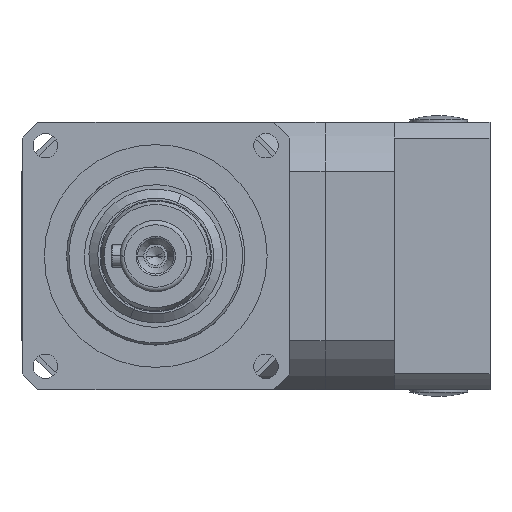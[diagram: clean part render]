
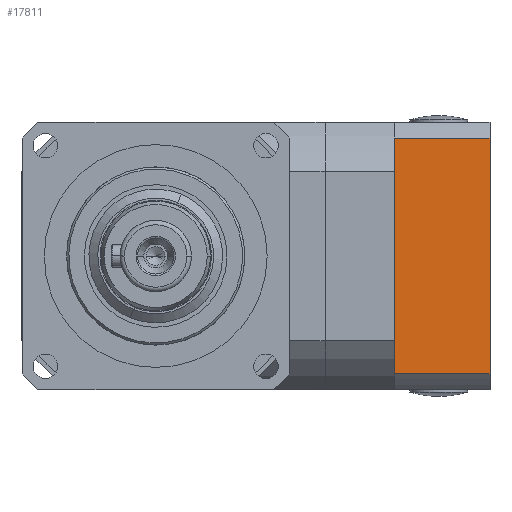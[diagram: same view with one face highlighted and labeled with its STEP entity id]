
A CAD part, left-side view. The second image highlights one B-rep face of the part: STEP entity #17811.
In plain terms, the highlighted planar face has unit normal (-1, 0, 0).
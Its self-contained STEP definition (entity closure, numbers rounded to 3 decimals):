
#859 = LINE ( 'NONE', #21085, #17687 ) ;
#2243 = EDGE_CURVE ( 'NONE', #18652, #6879, #859, .T. ) ;
#2604 = CARTESIAN_POINT ( 'NONE',  ( 15., -75., 26.458 ) ) ;
#3872 = AXIS2_PLACEMENT_3D ( 'NONE', #11807, #6995, #18366 ) ;
#5400 = EDGE_LOOP ( 'NONE', ( #5500, #20814, #17939, #8626 ) ) ;
#5500 = ORIENTED_EDGE ( 'NONE', *, *, #20743, .T. ) ;
#5630 = VECTOR ( 'NONE', #14944, 1000. ) ;
#5908 = VECTOR ( 'NONE', #14492, 1000. ) ;
#5957 = CARTESIAN_POINT ( 'NONE',  ( 15., -75., -26.458 ) ) ;
#6678 = CARTESIAN_POINT ( 'NONE',  ( 15., -53.5, 26.458 ) ) ;
#6879 = VERTEX_POINT ( 'NONE', #6996 ) ;
#6995 = DIRECTION ( 'NONE',  ( 1., 0., 0. ) ) ;
#6996 = CARTESIAN_POINT ( 'NONE',  ( 15., -53.5, 26.458 ) ) ;
#8626 = ORIENTED_EDGE ( 'NONE', *, *, #14473, .T. ) ;
#9049 = VERTEX_POINT ( 'NONE', #16668 ) ;
#9755 = LINE ( 'NONE', #20866, #5908 ) ;
#9968 = LINE ( 'NONE', #6678, #5630 ) ;
#11807 = CARTESIAN_POINT ( 'NONE',  ( 15., -53.5, -26.458 ) ) ;
#11983 = CARTESIAN_POINT ( 'NONE',  ( 15., -53.5, -26.458 ) ) ;
#12945 = DIRECTION ( 'NONE',  ( 0., 0., 1. ) ) ;
#14275 = VECTOR ( 'NONE', #19015, 1000. ) ;
#14473 = EDGE_CURVE ( 'NONE', #18652, #9049, #9755, .T. ) ;
#14492 = DIRECTION ( 'NONE',  ( 0., -1., 0. ) ) ;
#14944 = DIRECTION ( 'NONE',  ( 0., -1., 0. ) ) ;
#14991 = FACE_OUTER_BOUND ( 'NONE', #5400, .T. ) ;
#15163 = EDGE_CURVE ( 'NONE', #6879, #18149, #9968, .T. ) ;
#16668 = CARTESIAN_POINT ( 'NONE',  ( 15., -75., -26.458 ) ) ;
#16728 = PLANE ( 'NONE',  #3872 ) ;
#17687 = VECTOR ( 'NONE', #12945, 1000. ) ;
#17811 = ADVANCED_FACE ( 'NONE', ( #14991 ), #16728, .F. ) ;
#17939 = ORIENTED_EDGE ( 'NONE', *, *, #2243, .F. ) ;
#18094 = LINE ( 'NONE', #5957, #14275 ) ;
#18149 = VERTEX_POINT ( 'NONE', #2604 ) ;
#18366 = DIRECTION ( 'NONE',  ( 0., -1., 0. ) ) ;
#18652 = VERTEX_POINT ( 'NONE', #11983 ) ;
#19015 = DIRECTION ( 'NONE',  ( 0., 0., 1. ) ) ;
#20743 = EDGE_CURVE ( 'NONE', #9049, #18149, #18094, .T. ) ;
#20814 = ORIENTED_EDGE ( 'NONE', *, *, #15163, .F. ) ;
#20866 = CARTESIAN_POINT ( 'NONE',  ( 15., -53.5, -26.458 ) ) ;
#21085 = CARTESIAN_POINT ( 'NONE',  ( 15., -53.5, -26.458 ) ) ;
